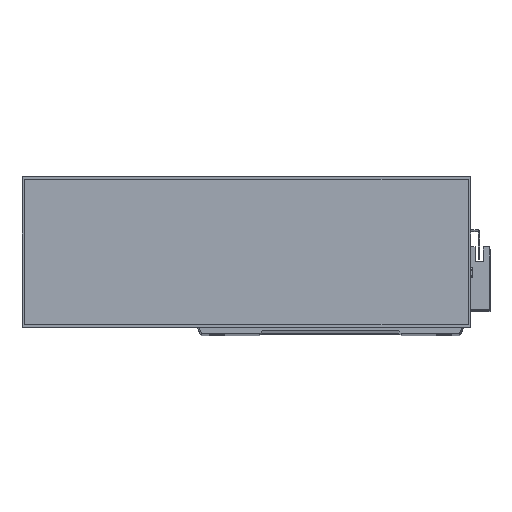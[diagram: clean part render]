
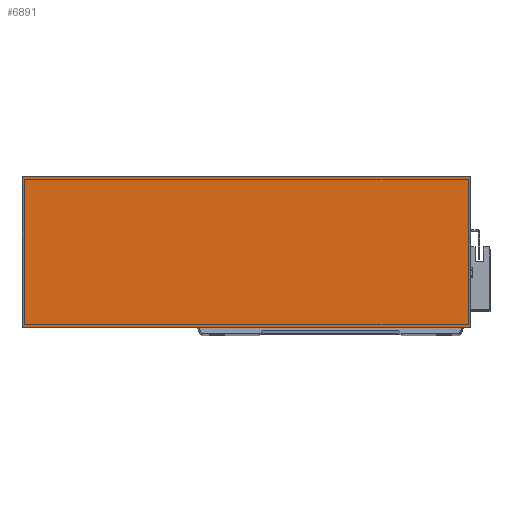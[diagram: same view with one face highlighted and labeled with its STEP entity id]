
A CAD part, top view. The second image highlights one B-rep face of the part: STEP entity #6891.
In plain terms, the highlighted planar face has unit normal (0, 0, 1).
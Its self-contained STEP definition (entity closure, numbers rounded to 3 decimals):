
#969 = ORIENTED_EDGE ( 'NONE', *, *, #6372, .T. ) ;
#1121 = DIRECTION ( 'NONE',  ( -1., 0., 0. ) ) ;
#1849 = CARTESIAN_POINT ( 'NONE',  ( 0., 0., 50. ) ) ;
#2887 = CARTESIAN_POINT ( 'NONE',  ( 0., 93., 50. ) ) ;
#3050 = VERTEX_POINT ( 'NONE', #20266 ) ;
#6002 = VECTOR ( 'NONE', #24197, 1000. ) ;
#6140 = EDGE_LOOP ( 'NONE', ( #18313, #969, #11944, #12314 ) ) ;
#6372 = EDGE_CURVE ( 'NONE', #20684, #13776, #20555, .T. ) ;
#6737 = LINE ( 'NONE', #17498, #6002 ) ;
#6891 = ADVANCED_FACE ( 'NONE', ( #21221 ), #12442, .F. ) ;
#7721 = EDGE_CURVE ( 'NONE', #13776, #3050, #6737, .T. ) ;
#8564 = VECTOR ( 'NONE', #17093, 1000. ) ;
#10746 = VECTOR ( 'NONE', #27565, 1000. ) ;
#11944 = ORIENTED_EDGE ( 'NONE', *, *, #7721, .T. ) ;
#12314 = ORIENTED_EDGE ( 'NONE', *, *, #26168, .T. ) ;
#12442 = PLANE ( 'NONE',  #15356 ) ;
#12672 = CARTESIAN_POINT ( 'NONE',  ( 0., 93., 50. ) ) ;
#13074 = CARTESIAN_POINT ( 'NONE',  ( 0., 0., 50. ) ) ;
#13255 = VECTOR ( 'NONE', #17696, 1000. ) ;
#13776 = VERTEX_POINT ( 'NONE', #24126 ) ;
#14717 = DIRECTION ( 'NONE',  ( 0., 0., -1. ) ) ;
#15356 = AXIS2_PLACEMENT_3D ( 'NONE', #28096, #14717, #1121 ) ;
#17093 = DIRECTION ( 'NONE',  ( 1., 0., 0. ) ) ;
#17498 = CARTESIAN_POINT ( 'NONE',  ( 277., 0., 50. ) ) ;
#17696 = DIRECTION ( 'NONE',  ( 0., -1., 0. ) ) ;
#18313 = ORIENTED_EDGE ( 'NONE', *, *, #24625, .T. ) ;
#19219 = CARTESIAN_POINT ( 'NONE',  ( 0., 0., 50. ) ) ;
#20266 = CARTESIAN_POINT ( 'NONE',  ( 277., 93., 50. ) ) ;
#20555 = LINE ( 'NONE', #19219, #8564 ) ;
#20619 = LINE ( 'NONE', #13074, #13255 ) ;
#20684 = VERTEX_POINT ( 'NONE', #1849 ) ;
#21221 = FACE_OUTER_BOUND ( 'NONE', #6140, .T. ) ;
#22421 = VERTEX_POINT ( 'NONE', #12672 ) ;
#24126 = CARTESIAN_POINT ( 'NONE',  ( 277., 0., 50. ) ) ;
#24197 = DIRECTION ( 'NONE',  ( 0., 1., 0. ) ) ;
#24625 = EDGE_CURVE ( 'NONE', #22421, #20684, #20619, .T. ) ;
#26168 = EDGE_CURVE ( 'NONE', #3050, #22421, #28622, .T. ) ;
#27565 = DIRECTION ( 'NONE',  ( -1., 0., 0. ) ) ;
#28096 = CARTESIAN_POINT ( 'NONE',  ( 0., 0., 50. ) ) ;
#28622 = LINE ( 'NONE', #2887, #10746 ) ;
